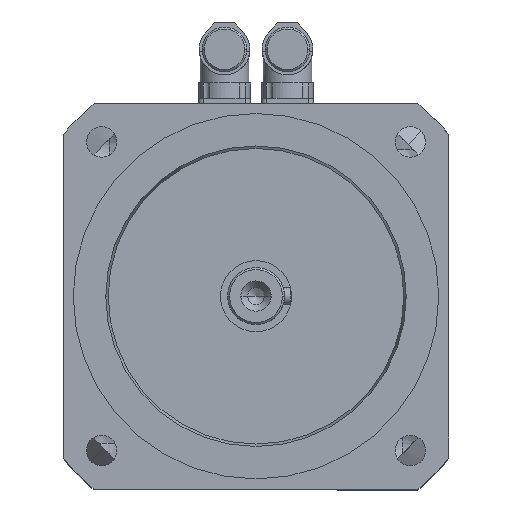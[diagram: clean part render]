
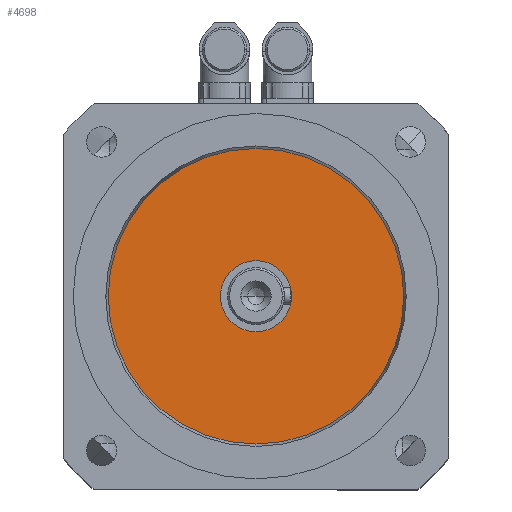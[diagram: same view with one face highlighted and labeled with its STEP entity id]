
A CAD part, top view. The second image highlights one B-rep face of the part: STEP entity #4698.
In plain terms, the highlighted planar face has unit normal (0, 0, 1).
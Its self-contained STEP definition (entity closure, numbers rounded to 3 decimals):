
#3573=CARTESIAN_POINT('',(-72.794,0.,296.5));
#3574=VERTEX_POINT('',#3573);
#3583=CARTESIAN_POINT('',(72.794,0.,296.5));
#3584=VERTEX_POINT('',#3583);
#3585=CARTESIAN_POINT('',(0.,0.0,296.5));
#3586=DIRECTION('',(0.0,0.0,1.0));
#3587=DIRECTION('',(-1.0,0.0,0.0));
#3588=AXIS2_PLACEMENT_3D('',#3585,#3586,#3587);
#3589=CIRCLE('',#3588,72.794);
#3590=EDGE_CURVE('',#3584,#3574,#3589,.T.);
#3835=CARTESIAN_POINT('',(-17.5,0.,296.5));
#3836=VERTEX_POINT('',#3835);
#3845=CARTESIAN_POINT('',(17.5,0.,296.5));
#3846=VERTEX_POINT('',#3845);
#3847=CARTESIAN_POINT('',(0.,0.0,296.5));
#3848=DIRECTION('',(0.0,0.0,-1.0));
#3849=DIRECTION('',(-1.0,0.0,0.0));
#3850=AXIS2_PLACEMENT_3D('',#3847,#3848,#3849);
#3851=CIRCLE('',#3850,17.5);
#3852=EDGE_CURVE('',#3846,#3836,#3851,.T.);
#4481=CARTESIAN_POINT('',(0.,0.0,296.5));
#4482=DIRECTION('',(0.0,0.0,-1.0));
#4483=DIRECTION('',(-1.0,0.0,0.0));
#4484=AXIS2_PLACEMENT_3D('',#4481,#4482,#4483);
#4485=CIRCLE('',#4484,17.5);
#4486=EDGE_CURVE('',#3836,#3846,#4485,.T.);
#4679=CARTESIAN_POINT('',(80.074,-80.074,296.5));
#4680=DIRECTION('',(0.0,0.0,-1.0));
#4681=DIRECTION('',(-1.0,0.0,0.0));
#4682=AXIS2_PLACEMENT_3D('',#4679,#4680,#4681);
#4683=PLANE('',#4682);
#4684=ORIENTED_EDGE('',*,*,#3590,.T.);
#4685=CARTESIAN_POINT('',(0.,0.0,296.5));
#4686=DIRECTION('',(0.0,0.0,1.0));
#4687=DIRECTION('',(-1.0,0.0,0.0));
#4688=AXIS2_PLACEMENT_3D('',#4685,#4686,#4687);
#4689=CIRCLE('',#4688,72.794);
#4690=EDGE_CURVE('',#3574,#3584,#4689,.T.);
#4691=ORIENTED_EDGE('',*,*,#4690,.T.);
#4692=EDGE_LOOP('',(#4684,#4691));
#4693=FACE_OUTER_BOUND('',#4692,.T.);
#4694=ORIENTED_EDGE('',*,*,#3852,.T.);
#4695=ORIENTED_EDGE('',*,*,#4486,.T.);
#4696=EDGE_LOOP('',(#4694,#4695));
#4697=FACE_BOUND('',#4696,.T.);
#4698=ADVANCED_FACE('',(#4693,#4697),#4683,.F.);
